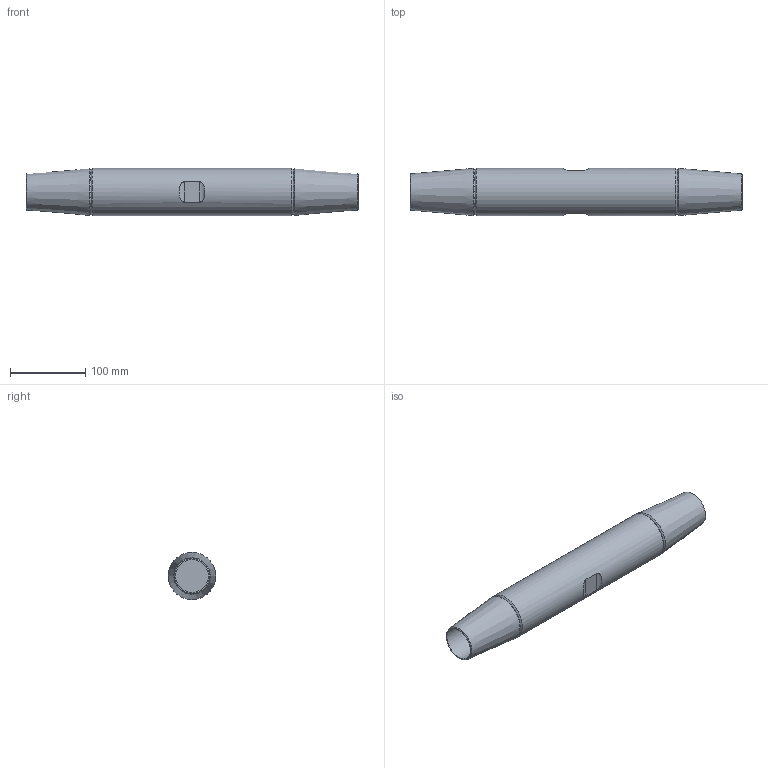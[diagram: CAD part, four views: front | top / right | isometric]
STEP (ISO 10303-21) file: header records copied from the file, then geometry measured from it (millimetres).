
FILE_DESCRIPTION(/* description */ (''),/* implementation_level */ '2;1');
FILE_NAME(/* name */ 'G:\Engineering\700 CAD\Internet-PX-1-step-igs-dxf\520-MUF-Arbeitsdateien\520-042-MUF.stp',/* time_stamp */ '2020-06-30T13:17:21+02:00',/* author */ ('schwarz'),/* organization */ (''),/* preprocessor_version */ 'ST-DEVELOPER v16.1',/* originating_system */ 'Autodesk Inventor 2016',/* authorisation */ '');
FILE_SCHEMA (('AUTOMOTIVE_DESIGN { 1 0 10303 214 3 1 1 }'));
Length unit declared in the file: centimetre
Products named in the file (1): Zusammenbau Muffe 520 042 Kunde
Bounding box: 441 x 63 x 63 mm (x, y, z)
Volume: 1054350.2 mm3; surface area: 105288.8 mm2
Topology: 1 solids, 1 shells, 21 faces, 42 edges, 26 vertices
Faces by surface type: cone 8, cylinder 7, plane 6
Full cylindrical faces by diameter (mm): 44 x2, 63 x1
Entity records: 629 total; most frequent: CARTESIAN_POINT 182, DIRECTION 80, ORIENTED_EDGE 60, EDGE_LOOP 36, AXIS2_PLACEMENT_3D 36, EDGE_CURVE 30, VERTEX_POINT 26, STYLED_ITEM 22
